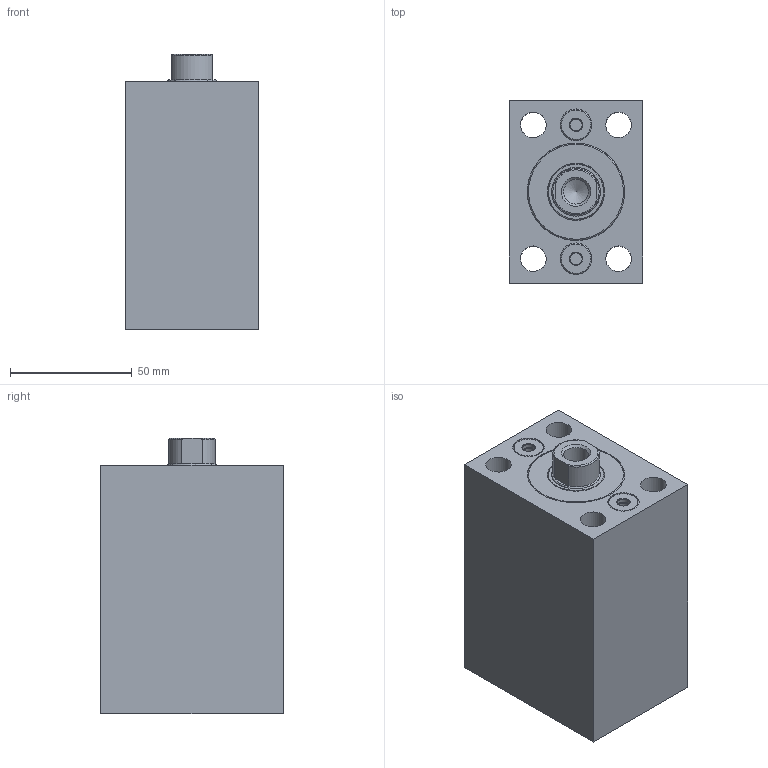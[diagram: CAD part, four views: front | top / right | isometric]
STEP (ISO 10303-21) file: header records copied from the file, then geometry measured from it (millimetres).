
FILE_DESCRIPTION( ( 'STEP AP203' ), '1' );
FILE_NAME( 'C:/Users/SAYKO.ltd/Desktop/SBZ100/07/SBZ100-32/SBZ100.32__FORM_07_STROKE_30__H2_47_POS_0_.stp', ' ', ( ' ' ), ( ' ' ), 'PSStep 15.0.47', 'PARTsolutions', ' ' );
FILE_SCHEMA( ( 'CONFIG_CONTROL_DESIGN' ) );
Length unit declared in the file: millimetre
Products named in the file (5): SBZ100.32  FORM=07 STROKE=30 (H2=47 POS=0); HI_SBZ10032  FORM=07 STROKE=30 H2=47 -C; HI_SBZ10032  FORM=07 STROKE=30-R; HI_SBZ100.32-C; HI_SBZ100.32-S
Assembly tree (4 placements, depth 2):
  SBZ100.32  FORM=07 STROKE=30 (H2=47 POS=0)
    HI_SBZ10032  FORM=07 STROKE=30 H2=47 -C
    HI_SBZ10032  FORM=07 STROKE=30-R
    HI_SBZ100.32-C
    HI_SBZ100.32-S
Bounding box: 55 x 75 x 113 mm (x, y, z)
Volume: 362734.5 mm3; surface area: 78701.3 mm2
Topology: 4 solids, 4 shells, 74 faces, 136 edges, 87 vertices
Faces by surface type: plane 33, cylinder 28, cone 10, torus 3
Full cylindrical faces by diameter (mm): 5 x4, 10.106 x1, 10.5 x4, 13 x2, 18 x4, 20 x4, 23.5 x1, 28 x2, 32 x2, 40 x2
Entity records: 3847 total; most frequent: CARTESIAN_POINT 2517, ORIENTED_EDGE 188, DIRECTION 178, EDGE_LOOP 140, FACE_OUTER_BOUND 101, EDGE_CURVE 94, VERTEX_POINT 83, AXIS2_PLACEMENT_3D 81
